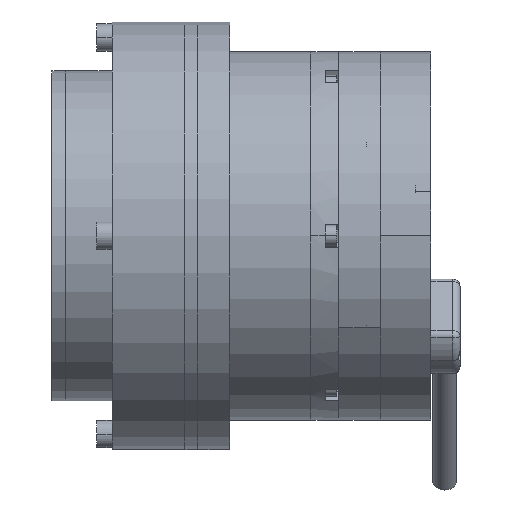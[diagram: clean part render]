
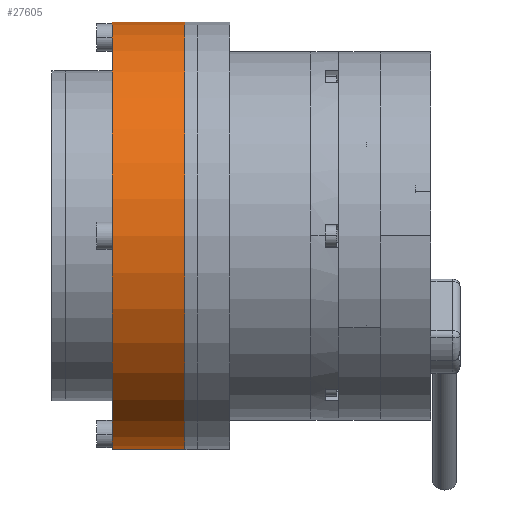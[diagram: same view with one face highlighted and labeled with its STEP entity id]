
A CAD part, left-side view. The second image highlights one B-rep face of the part: STEP entity #27605.
In plain terms, the highlighted cylindrical face has radius 55 mm (diameter 110 mm), a partial arc.
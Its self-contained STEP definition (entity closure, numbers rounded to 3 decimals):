
#504 = VERTEX_POINT ( 'NONE', #28695 ) ;
#521 = CARTESIAN_POINT ( 'NONE',  ( 0., 22., 55. ) ) ;
#2298 = DIRECTION ( 'NONE',  ( 0., -1., 0. ) ) ;
#4719 = CARTESIAN_POINT ( 'NONE',  ( 0., 3.3, -55. ) ) ;
#5952 = CARTESIAN_POINT ( 'NONE',  ( 0., 22., 0. ) ) ;
#6179 = DIRECTION ( 'NONE',  ( 0., 0., -1. ) ) ;
#6248 = ORIENTED_EDGE ( 'NONE', *, *, #25625, .F. ) ;
#6438 = VECTOR ( 'NONE', #2298, 1000. ) ;
#7192 = LINE ( 'NONE', #25894, #6438 ) ;
#8468 = ORIENTED_EDGE ( 'NONE', *, *, #20440, .T. ) ;
#8958 = EDGE_LOOP ( 'NONE', ( #6248, #14138, #8468, #25515 ) ) ;
#10638 = FACE_OUTER_BOUND ( 'NONE', #8958, .T. ) ;
#10692 = DIRECTION ( 'NONE',  ( 0., 0., 1. ) ) ;
#14138 = ORIENTED_EDGE ( 'NONE', *, *, #14649, .F. ) ;
#14302 = EDGE_CURVE ( 'NONE', #504, #28615, #24048, .T. ) ;
#14649 = EDGE_CURVE ( 'NONE', #16159, #24390, #22638, .T. ) ;
#16159 = VERTEX_POINT ( 'NONE', #19350 ) ;
#17627 = CARTESIAN_POINT ( 'NONE',  ( 0., 22., 0. ) ) ;
#17905 = CARTESIAN_POINT ( 'NONE',  ( 0., 3.3, 0. ) ) ;
#19133 = DIRECTION ( 'NONE',  ( 0., -1., 0. ) ) ;
#19250 = AXIS2_PLACEMENT_3D ( 'NONE', #17905, #27615, #6179 ) ;
#19350 = CARTESIAN_POINT ( 'NONE',  ( 0., 22., -55. ) ) ;
#19816 = DIRECTION ( 'NONE',  ( 0., 1., 0. ) ) ;
#20440 = EDGE_CURVE ( 'NONE', #16159, #28615, #7192, .T. ) ;
#21407 = LINE ( 'NONE', #521, #26279 ) ;
#22638 = CIRCLE ( 'NONE', #23117, 55. ) ;
#23117 = AXIS2_PLACEMENT_3D ( 'NONE', #5952, #19816, #10692 ) ;
#24048 = CIRCLE ( 'NONE', #19250, 55. ) ;
#24390 = VERTEX_POINT ( 'NONE', #27402 ) ;
#25515 = ORIENTED_EDGE ( 'NONE', *, *, #14302, .F. ) ;
#25625 = EDGE_CURVE ( 'NONE', #24390, #504, #21407, .T. ) ;
#25894 = CARTESIAN_POINT ( 'NONE',  ( 0., 22., -55. ) ) ;
#26279 = VECTOR ( 'NONE', #19133, 1000. ) ;
#26445 = DIRECTION ( 'NONE',  ( 0., 0., -1. ) ) ;
#26591 = CYLINDRICAL_SURFACE ( 'NONE', #28262, 55. ) ;
#27402 = CARTESIAN_POINT ( 'NONE',  ( 0., 22., 55. ) ) ;
#27605 = ADVANCED_FACE ( 'NONE', ( #10638 ), #26591, .T. ) ;
#27615 = DIRECTION ( 'NONE',  ( 0., -1., 0. ) ) ;
#28262 = AXIS2_PLACEMENT_3D ( 'NONE', #17627, #28733, #26445 ) ;
#28615 = VERTEX_POINT ( 'NONE', #4719 ) ;
#28695 = CARTESIAN_POINT ( 'NONE',  ( 0., 3.3, 55. ) ) ;
#28733 = DIRECTION ( 'NONE',  ( 0., -1., 0. ) ) ;
